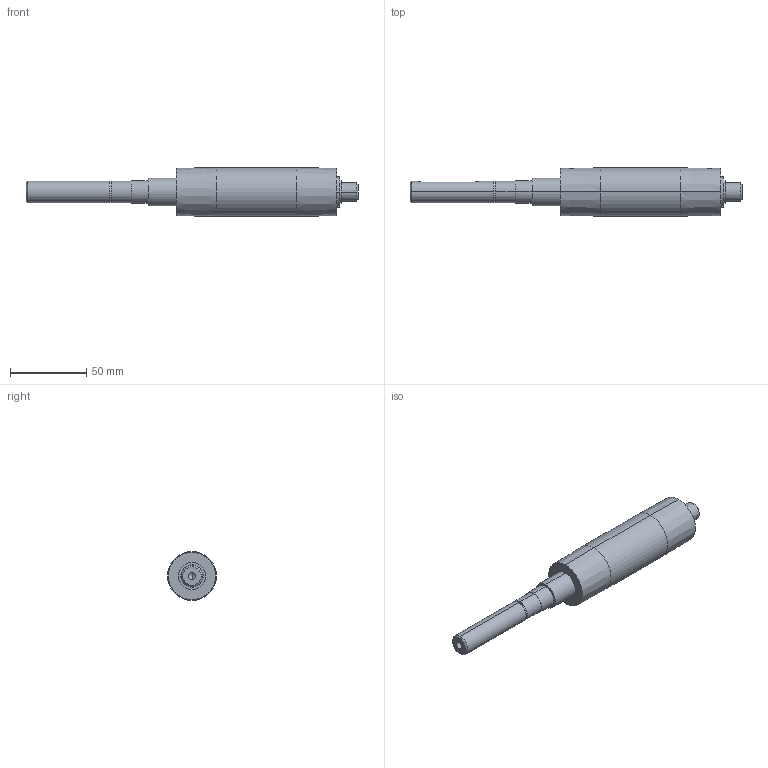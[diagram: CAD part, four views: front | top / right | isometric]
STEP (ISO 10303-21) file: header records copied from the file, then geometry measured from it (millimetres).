
FILE_DESCRIPTION (( 'STEP AP214' ), '1' );
FILE_NAME ('084.030.137.STEP', '2021-02-05T15:43:25', ( '' ), ( '' ), 'SwSTEP 2.0', 'SolidWorks 2018', '' );
FILE_SCHEMA (( 'AUTOMOTIVE_DESIGN' ));
Length unit declared in the file: millimetre
Products named in the file (1): 084.030.137
Bounding box: 217.5 x 32 x 32 mm (x, y, z)
Volume: 101432.4 mm3; surface area: 17693.9 mm2
Topology: 1 solids, 1 shells, 45 faces, 92 edges, 57 vertices
Faces by surface type: cylinder 22, plane 13, cone 10
Entity records: 1296 total; most frequent: CARTESIAN_POINT 255, DIRECTION 230, ORIENTED_EDGE 180, AXIS2_PLACEMENT_3D 96, EDGE_CURVE 90, VERTEX_POINT 57, EDGE_LOOP 55, CIRCLE 50
